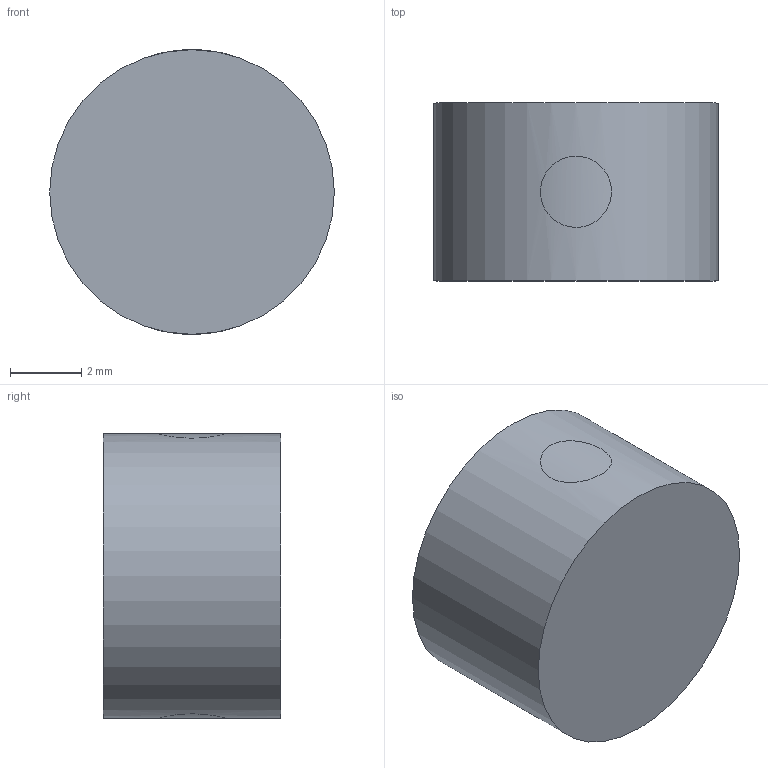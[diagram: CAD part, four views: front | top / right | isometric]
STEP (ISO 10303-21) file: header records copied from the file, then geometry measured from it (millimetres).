
FILE_DESCRIPTION(/* description */ (''),/* implementation_level */ '2;1');
FILE_NAME(/* name */ 'LM-5785-0158-A_UCT ORIENTATION PIP.stp',/* time_stamp */ '2026-03-17T14:52:38Z',/* author */ (''),/* organization */ (''),/* preprocessor_version */ 'ST-DEVELOPER v20',/* originating_system */ 'SIEMENS PLM Software NX2312.9162',/* authorisation */ '');
FILE_SCHEMA (('AUTOMOTIVE_DESIGN { 1 0 10303 214 3 1 1 1 }'));
Length unit declared in the file: millimetre
Products named in the file (1): LM-5785-0158_objects
Bounding box: 8 x 5 x 8 mm (x, y, z)
Volume: 251.3 mm3; surface area: 226.2 mm2
Topology: 1 solids, 1 shells, 5 faces, 8 edges, 6 vertices
Faces by surface type: cylinder 3, plane 2
Full cylindrical faces by diameter (mm): 8 x1
Entity records: 159 total; most frequent: CARTESIAN_POINT 38, DIRECTION 16, EDGE_LOOP 8, ORIENTED_EDGE 8, AXIS2_PLACEMENT_3D 8, ADVANCED_FACE 5, FACE_BOUND 4, FACE_OUTER_BOUND 4
